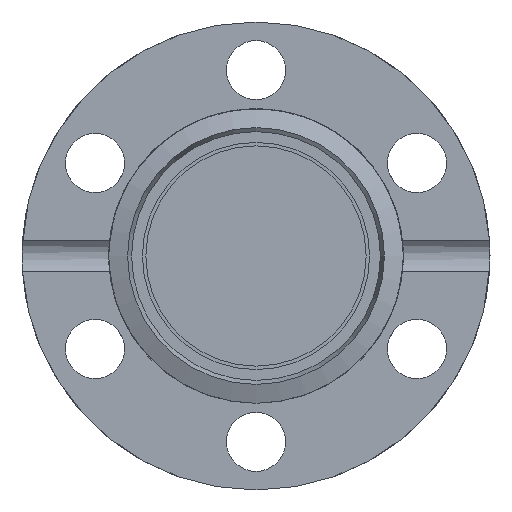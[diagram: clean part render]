
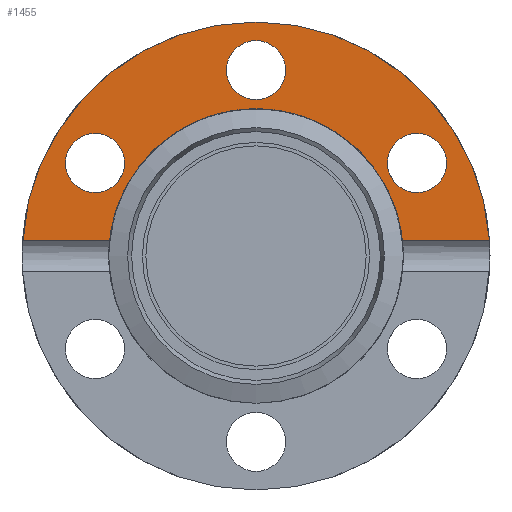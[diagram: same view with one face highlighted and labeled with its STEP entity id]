
A CAD part, left-side view. The second image highlights one B-rep face of the part: STEP entity #1455.
In plain terms, the highlighted planar face has unit normal (-1, 0, 0).
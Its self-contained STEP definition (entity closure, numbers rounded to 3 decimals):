
#1455 = ADVANCED_FACE( '', ( #3485, #3486, #3487, #3488 ), #3489, .F. );
#3485 = FACE_BOUND( '', #6146, .T. );
#3486 = FACE_BOUND( '', #6147, .T. );
#3487 = FACE_BOUND( '', #6148, .T. );
#3488 = FACE_OUTER_BOUND( '', #6149, .T. );
#3489 = PLANE( '', #6150 );
#6146 = EDGE_LOOP( '', ( #9446 ) );
#6147 = EDGE_LOOP( '', ( #9447 ) );
#6148 = EDGE_LOOP( '', ( #9448 ) );
#6149 = EDGE_LOOP( '', ( #9449, #9450, #9451, #9452 ) );
#6150 = AXIS2_PLACEMENT_3D( '', #9453, #9454, #9455 );
#9446 = ORIENTED_EDGE( '', *, *, #12006, .F. );
#9447 = ORIENTED_EDGE( '', *, *, #11700, .F. );
#9448 = ORIENTED_EDGE( '', *, *, #12134, .F. );
#9449 = ORIENTED_EDGE( '', *, *, #12219, .T. );
#9450 = ORIENTED_EDGE( '', *, *, #12288, .T. );
#9451 = ORIENTED_EDGE( '', *, *, #12289, .F. );
#9452 = ORIENTED_EDGE( '', *, *, #12290, .T. );
#9453 = CARTESIAN_POINT( '', ( -7.6, 0., 17. ) );
#9454 = DIRECTION( '', ( 1., 0., 0. ) );
#9455 = DIRECTION( '', ( 0., 0., -1. ) );
#11700 = EDGE_CURVE( '', #13192, #13192, #13193, .T. );
#12006 = EDGE_CURVE( '', #13685, #13685, #13686, .T. );
#12134 = EDGE_CURVE( '', #13885, #13885, #13886, .T. );
#12219 = EDGE_CURVE( '', #14016, #14014, #14017, .T. );
#12288 = EDGE_CURVE( '', #14014, #14119, #14120, .T. );
#12289 = EDGE_CURVE( '', #14121, #14119, #14122, .T. );
#12290 = EDGE_CURVE( '', #14121, #14016, #14123, .T. );
#13192 = VERTEX_POINT( '', #15203 );
#13193 = CIRCLE( '', #15204, 2.15 );
#13685 = VERTEX_POINT( '', #15736 );
#13686 = CIRCLE( '', #15737, 2.15 );
#13885 = VERTEX_POINT( '', #15936 );
#13886 = CIRCLE( '', #15937, 2.15 );
#14014 = VERTEX_POINT( '', #16065 );
#14016 = VERTEX_POINT( '', #16080 );
#14017 = CIRCLE( '', #16081, 17. );
#14119 = VERTEX_POINT( '', #16196 );
#14120 = LINE( '', #16197, #16198 );
#14121 = VERTEX_POINT( '', #16199 );
#14122 = CIRCLE( '', #16200, 10.7 );
#14123 = LINE( '', #16201, #16202 );
#15203 = CARTESIAN_POINT( '', ( -7.6, -10.616, -8.612 ) );
#15204 = AXIS2_PLACEMENT_3D( '', #17395, #17396, #17397 );
#15736 = CARTESIAN_POINT( '', ( -7.6, 12.766, -4.888 ) );
#15737 = AXIS2_PLACEMENT_3D( '', #17951, #17952, #17953 );
#15936 = CARTESIAN_POINT( '', ( -7.6, 2.15, -13.5 ) );
#15937 = AXIS2_PLACEMENT_3D( '', #18167, #18168, #18169 );
#16065 = CARTESIAN_POINT( '', ( -7.6, -16.963, -1.118 ) );
#16080 = CARTESIAN_POINT( '', ( -7.6, 16.963, -1.118 ) );
#16081 = AXIS2_PLACEMENT_3D( '', #18299, #18300, #18301 );
#16196 = CARTESIAN_POINT( '', ( -7.6, -10.641, -1.118 ) );
#16197 = CARTESIAN_POINT( '', ( -7.6, -17., -1.118 ) );
#16198 = VECTOR( '', #18401, 1000. );
#16199 = CARTESIAN_POINT( '', ( -7.6, 10.641, -1.118 ) );
#16200 = AXIS2_PLACEMENT_3D( '', #18402, #18403, #18404 );
#16201 = CARTESIAN_POINT( '', ( -7.6, -17., -1.118 ) );
#16202 = VECTOR( '', #18405, 1000. );
#17395 = CARTESIAN_POINT( '', ( -7.6, -11.691, -6.75 ) );
#17396 = DIRECTION( '', ( -1., 0., 0. ) );
#17397 = DIRECTION( '', ( 0., 0.5, -0.866 ) );
#17951 = CARTESIAN_POINT( '', ( -7.6, 11.691, -6.75 ) );
#17952 = DIRECTION( '', ( -1., 0., 0. ) );
#17953 = DIRECTION( '', ( 0., 0.5, 0.866 ) );
#18167 = CARTESIAN_POINT( '', ( -7.6, 0., -13.5 ) );
#18168 = DIRECTION( '', ( -1., 0., 0. ) );
#18169 = DIRECTION( '', ( 0., 1., 0. ) );
#18299 = CARTESIAN_POINT( '', ( -7.6, 0., 0. ) );
#18300 = DIRECTION( '', ( -1., 0., 0. ) );
#18301 = DIRECTION( '', ( 0., 0., 1. ) );
#18401 = DIRECTION( '', ( 0., 1., 0. ) );
#18402 = CARTESIAN_POINT( '', ( -7.6, 0., 0. ) );
#18403 = DIRECTION( '', ( -1., 0., 0. ) );
#18404 = DIRECTION( '', ( 0., 0., 1. ) );
#18405 = DIRECTION( '', ( 0., 1., 0. ) );
